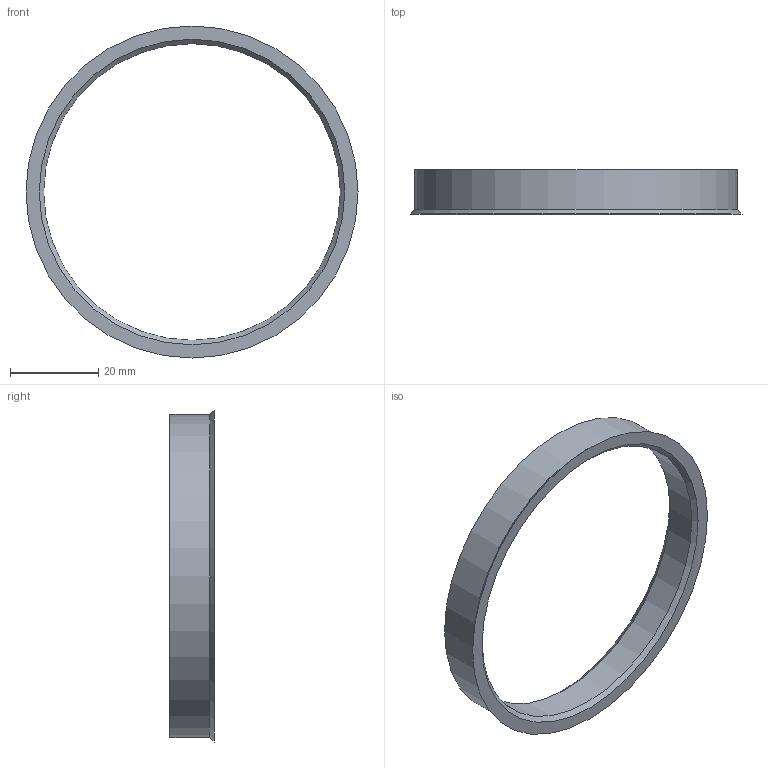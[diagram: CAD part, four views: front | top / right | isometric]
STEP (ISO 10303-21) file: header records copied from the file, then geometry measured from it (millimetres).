
FILE_DESCRIPTION(/* description */ (''),/* implementation_level */ '2;1');
FILE_NAME(/* name */ 'G:\CAD Library\Team Tasks\DIPP\11th Intake\Bradley Coles\Design Drafting\Random\Hub Rings\ipt\HubRing_73.1-67.1.stp',/* time_stamp */ '2025-07-22T13:44:17+08:00',/* author */ ('BCOLES'),/* organization */ (''),/* preprocessor_version */ 'ST-DEVELOPER v18.1',/* originating_system */ 'Autodesk Inventor 2022',/* authorisation */ '');
FILE_SCHEMA (('AUTOMOTIVE_DESIGN { 1 0 10303 214 3 1 1 }'));
Length unit declared in the file: millimetre
Products named in the file (1): HubRing_73.1-67.1
Bounding box: 75.1 x 10 x 75.1 mm (x, y, z)
Volume: 6186.2 mm3; surface area: 5694.3 mm2
Topology: 1 solids, 1 shells, 7 faces, 13 edges, 8 vertices
Faces by surface type: cone 3, cylinder 2, plane 2
Full cylindrical faces by diameter (mm): 67.1 x1, 73.1 x1
Entity records: 226 total; most frequent: DIRECTION 37, CARTESIAN_POINT 29, ORIENTED_EDGE 26, AXIS2_PLACEMENT_3D 16, EDGE_CURVE 13, EDGE_LOOP 9, CIRCLE 8, VERTEX_POINT 8
